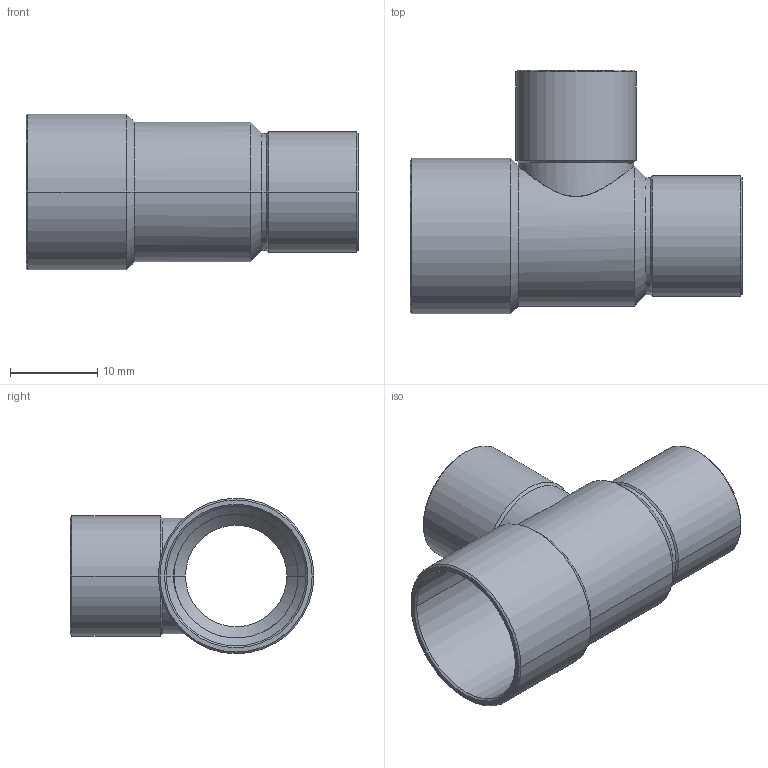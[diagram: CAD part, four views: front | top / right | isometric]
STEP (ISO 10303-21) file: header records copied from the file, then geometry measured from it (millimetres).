
FILE_DESCRIPTION((''),'2;1');
FILE_NAME('P:\Bouwmaten\z-maattekeningen 3D\5000\5130\5130161212.stp','2005-10-26T11:53:09',('Kris'),(''),'Autodesk Inventor 8','Autodesk Inventor 8','');
FILE_SCHEMA(('AUTOMOTIVE_DESIGN { 1 0 10303 214 1 1 1 1 }'));
Length unit declared in the file: millimetre
Products named in the file (1): 5130161212
Bounding box: 38 x 27.9 x 17.8 mm (x, y, z)
Volume: 1953.7 mm3; surface area: 4530 mm2
Topology: 1 solids, 1 shells, 59 faces, 130 edges, 72 vertices
Faces by surface type: cone 28, cylinder 26, plane 3, bspline 2
Entity records: 2325 total; most frequent: CARTESIAN_POINT 1002, DIRECTION 286, ORIENTED_EDGE 260, EDGE_CURVE 130, AXIS2_PLACEMENT_3D 117, VERTEX_POINT 72, EDGE_LOOP 62, CIRCLE 59
